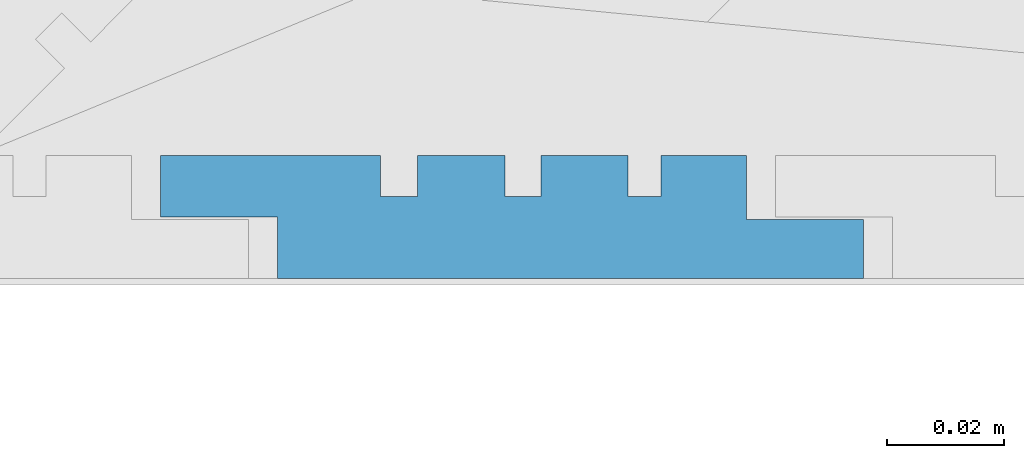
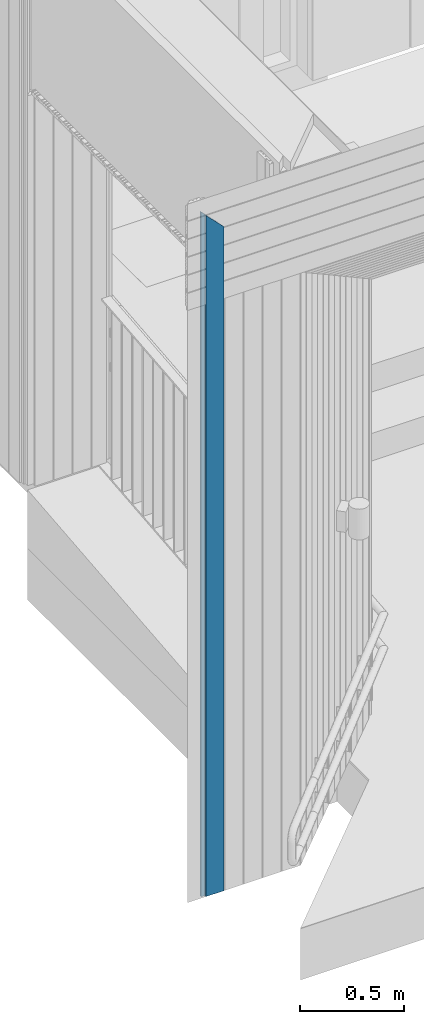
# One storey, part 100 of 418: 1 building element part, 1 element without a shape of its own.
"""IFC2X3 building model written with IfcOpenShell, lengths in millimetres."""

from ifc_helpers import new_model, entity, si_unit, converted_unit, derived_unit, money_unit, direction, frame, origin_with_axes, place, context, subcontext, project, spatial, polyline, outline, extrude, boolean, faceted_brep, material, type_object, element, aggregate, save


model = new_model("IFC2X3")

# Units and contexts
model_context = context("Model", 3, precision=0.01, world=origin_with_axes(), true_north=direction((0.0, 1.0)))
body_context = subcontext(model_context, "Body", "Model", "MODEL_VIEW")
ifc_project = project(units=[si_unit("LENGTHUNIT", "METRE", prefix="MILLI"), si_unit("AREAUNIT", "SQUARE_METRE"), si_unit("VOLUMEUNIT", "CUBIC_METRE"), converted_unit("PLANEANGLEUNIT", "DEGREE", entity("IfcPlaneAngleMeasure", 0.0174532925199), si_unit("PLANEANGLEUNIT", "RADIAN"), dimensions=[0, 0, 0, 0, 0, 0, 0]), si_unit("SOLIDANGLEUNIT", "STERADIAN"), money_unit("EUR"), converted_unit("TIMEUNIT", "Year", entity("IfcTimeMeasure", 31556926.0), si_unit("TIMEUNIT", "SECOND"), dimensions=[0, 0, 1, 0, 0, 0, 0]), si_unit("MASSUNIT", "GRAM", prefix="KILO"), si_unit("THERMODYNAMICTEMPERATUREUNIT", "DEGREE_CELSIUS"), si_unit("LUMINOUSINTENSITYUNIT", "LUMEN"), si_unit("ENERGYUNIT", "JOULE", prefix="MEGA"), derived_unit("THERMALCONDUCTANCEUNIT", [(si_unit("POWERUNIT", "WATT"), 1), (si_unit("LENGTHUNIT", "METRE"), -1), (si_unit("THERMODYNAMICTEMPERATUREUNIT", "KELVIN"), -1)]), derived_unit("SPECIFICHEATCAPACITYUNIT", [(si_unit("ENERGYUNIT", "JOULE"), 1), (si_unit("MASSUNIT", "GRAM", prefix="KILO"), -1), (si_unit("THERMODYNAMICTEMPERATUREUNIT", "KELVIN"), -1)]), derived_unit("MASSDENSITYUNIT", [(si_unit("MASSUNIT", "GRAM", prefix="KILO"), 1), (si_unit("VOLUMEUNIT", "CUBIC_METRE"), -1)])], contexts=[model_context])

# Site, building, storey
site_placement = place(None, origin_with_axes())
site = spatial("IfcSite", under=ifc_project, at=site_placement, Name="Paldiski mnt 245/1, Tallinn, Harjumaa", CompositionType="COMPLEX")
building_placement = place(site_placement, origin_with_axes())
building = spatial("IfcBuilding", under=site, at=building_placement, Name="RKAS Hoone üldnimetus (kasutust iseloomustav) -> IFC Project Manager -> SOLIBRI", CompositionType="ELEMENT")
storey_placement = place(building_placement, origin_with_axes())
storey = spatial("IfcBuildingStorey", under=building, at=storey_placement, Name="Esimene korrus", CompositionType="ELEMENT", Elevation=0.0)

# Proxy, building element part
building_element_proxy_type = type_object("IfcBuildingElementProxyType", Name="Laudis esiprofiil_01 21 x 622", PredefinedType="NOTDEFINED")
proxy_placement = place(storey_placement, frame((-45641.4622152, -18705.5141429, 0.0), z_axis=(0.0, 0.0, 1.0), x_axis=(0.0, 1.0, 0.0)))
proxy = element("IfcBuildingElementProxy", 1, at=proxy_placement, inside=storey, type_object=building_element_proxy_type, Name="Varikatus")
ifc_material = material(Name="Laudis 5072 Honka 45 horisontaalne raastas")
building_element_part_placement = place(proxy_placement, origin_with_axes())
building_element_part = element("IfcBuildingElementPart", 2, at=building_element_part_placement, material=ifc_material, Name="Laudis 5072 Honka 45 horisontaalne raastas", context=body_context, shape_type="CSG", body=[
    boolean("DIFFERENCE", boolean("DIFFERENCE", boolean("DIFFERENCE", boolean("DIFFERENCE", boolean("DIFFERENCE", boolean("DIFFERENCE", extrude(outline(polyline([(3.20348192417e-08, -100.971430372), (-10.5000010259, -100.971430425), (-10.5000005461, -80.9714298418), (-20.9999998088, -80.9714301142), (-21.0000010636, -118.497524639), (-14.0000005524, -118.497525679), (-14.0000003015, -124.860022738), (-20.99999981, -124.860022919), (-20.9999998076, -139.79914009), (-14.0000002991, -139.799139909), (-14.0000007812, -145.926080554), (-21.0000002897, -145.926080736), (-21.0000013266, -160.754573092), (-14.0000008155, -160.754574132), (-14.0000015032, -166.395242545), (-21.0000010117, -166.395242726), (-21.0000007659, -180.971429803), (-10.000001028, -180.971430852), (-10.0000002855, -200.971430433), (-7.63172636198e-07, -200.971430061), (3.20348192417e-08, -100.971430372)])), frame((0.0, 0.0, 0.0), z_axis=(0.0, 0.0, -1.0), x_axis=(-1.0, 0.0, 0.0)), (0.0, 0.0, -1.0), 4086.15997799), faceted_brep([(7.63172636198e-07, -515.971430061, 3569.02857112), (10.0000002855, -515.971430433, 3569.02857075), (10.0000002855, -515.971430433, 4086.15997799), (7.63172636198e-07, -515.971430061, 4086.15997799), (10.000001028, -495.971430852, 3589.02857033), (-3.20348192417e-08, -415.971430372, 3669.02857081), (10.5000010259, -415.971430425, 3669.02857076), (10.5000005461, -395.971429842, 3689.02857134), (20.9999998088, -395.971430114, 3689.02857107), (21.0000010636, -433.497524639, 3651.50247655), (14.0000005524, -433.497525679, 3651.50247551), (14.0000003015, -439.860022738, 3645.13997845), (20.99999981, -439.860022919, 3645.13997827), (20.9999998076, -454.79914009, 3630.20086109), (14.0000002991, -454.799139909, 3630.20086128), (14.0000007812, -460.926080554, 3624.07392063), (21.0000002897, -460.926080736, 3624.07392045), (21.0000013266, -475.754573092, 3609.24542809), (14.0000008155, -475.754574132, 3609.24542705), (14.0000015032, -481.395242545, 3603.60475864), (21.0000010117, -481.395242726, 3603.60475846), (21.0000007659, -495.971429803, 3589.02857138), (10.000001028, -495.971430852, 4086.15997799), (10.5000010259, -415.971430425, 4086.15997799), (-3.20348192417e-08, -415.971430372, 4086.15997799), (21.0000007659, -495.971429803, 4086.15997799), (21.0000010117, -481.395242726, 4086.15997799), (14.0000015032, -481.395242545, 4086.15997799), (14.0000008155, -475.754574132, 4086.15997799), (21.0000013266, -475.754573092, 4086.15997799), (21.0000002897, -460.926080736, 4086.15997799), (14.0000007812, -460.926080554, 4086.15997799), (14.0000002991, -454.799139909, 4086.15997799), (20.9999998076, -454.79914009, 4086.15997799), (20.99999981, -439.860022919, 4086.15997799), (14.0000003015, -439.860022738, 4086.15997799), (14.0000005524, -433.497525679, 4086.15997799), (21.0000010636, -433.497524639, 4086.15997799), (20.9999998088, -395.971430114, 4086.15997799), (10.5000005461, -395.971429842, 4086.15997799)], [[[0, 1, 2, 3]], [[4, 1, 0, 5, 6, 7, 8, 9, 10, 11, 12, 13, 14, 15, 16, 17, 18, 19, 20, 21]], [[1, 4, 22, 2]], [[23, 24, 3, 2, 22, 25, 26, 27, 28, 29, 30, 31, 32, 33, 34, 35, 36, 37, 38, 39]], [[5, 0, 3, 24]], [[6, 5, 24, 23]], [[7, 6, 23, 39]], [[8, 7, 39, 38]], [[9, 8, 38, 37]], [[10, 9, 37, 36]], [[11, 10, 36, 35]], [[12, 11, 35, 34]], [[13, 12, 34, 33]], [[14, 13, 33, 32]], [[15, 14, 32, 31]], [[16, 15, 31, 30]], [[17, 16, 30, 29]], [[18, 17, 29, 28]], [[19, 18, 28, 27]], [[20, 19, 27, 26]], [[21, 20, 26, 25]], [[4, 21, 25, 22]]])), faceted_brep([(7.63172636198e-07, -620.971430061, 3464.02857112), (10.0000002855, -620.971430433, 3464.02857075), (10.0000002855, -620.971430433, 4086.15997799), (7.63172636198e-07, -620.971430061, 4086.15997799), (10.000001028, -600.971430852, 3484.02857033), (-3.20348192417e-08, -520.971430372, 3564.02857081), (10.5000010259, -520.971430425, 3564.02857076), (10.5000005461, -500.971429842, 3584.02857134), (20.9999998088, -500.971430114, 3584.02857107), (21.0000010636, -538.497524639, 3546.50247655), (14.0000005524, -538.497525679, 3546.50247551), (14.0000003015, -544.860022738, 3540.13997845), (20.99999981, -544.860022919, 3540.13997827), (20.9999998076, -559.79914009, 3525.20086109), (14.0000002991, -559.799139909, 3525.20086128), (14.0000007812, -565.926080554, 3519.07392063), (21.0000002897, -565.926080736, 3519.07392045), (21.0000013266, -580.754573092, 3504.24542809), (14.0000008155, -580.754574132, 3504.24542705), (14.0000015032, -586.395242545, 3498.60475864), (21.0000010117, -586.395242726, 3498.60475846), (21.0000007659, -600.971429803, 3484.02857138), (10.000001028, -600.971430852, 4086.15997799), (10.5000010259, -520.971430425, 4086.15997799), (-3.20348192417e-08, -520.971430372, 4086.15997799), (21.0000007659, -600.971429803, 4086.15997799), (21.0000010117, -586.395242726, 4086.15997799), (14.0000015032, -586.395242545, 4086.15997799), (14.0000008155, -580.754574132, 4086.15997799), (21.0000013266, -580.754573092, 4086.15997799), (21.0000002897, -565.926080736, 4086.15997799), (14.0000007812, -565.926080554, 4086.15997799), (14.0000002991, -559.799139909, 4086.15997799), (20.9999998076, -559.79914009, 4086.15997799), (20.99999981, -544.860022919, 4086.15997799), (14.0000003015, -544.860022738, 4086.15997799), (14.0000005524, -538.497525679, 4086.15997799), (21.0000010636, -538.497524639, 4086.15997799), (20.9999998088, -500.971430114, 4086.15997799), (10.5000005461, -500.971429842, 4086.15997799)], [[[0, 1, 2, 3]], [[4, 1, 0, 5, 6, 7, 8, 9, 10, 11, 12, 13, 14, 15, 16, 17, 18, 19, 20, 21]], [[1, 4, 22, 2]], [[23, 24, 3, 2, 22, 25, 26, 27, 28, 29, 30, 31, 32, 33, 34, 35, 36, 37, 38, 39]], [[5, 0, 3, 24]], [[6, 5, 24, 23]], [[7, 6, 23, 39]], [[8, 7, 39, 38]], [[9, 8, 38, 37]], [[10, 9, 37, 36]], [[11, 10, 36, 35]], [[12, 11, 35, 34]], [[13, 12, 34, 33]], [[14, 13, 33, 32]], [[15, 14, 32, 31]], [[16, 15, 31, 30]], [[17, 16, 30, 29]], [[18, 17, 29, 28]], [[19, 18, 28, 27]], [[20, 19, 27, 26]], [[21, 20, 26, 25]], [[4, 21, 25, 22]]])), faceted_brep([(7.63172636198e-07, -305.971430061, 3779.02857112), (10.0000002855, -305.971430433, 3779.02857075), (10.0000002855, -305.971430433, 4086.15997799), (7.63172636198e-07, -305.971430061, 4086.15997799), (10.000001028, -285.971430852, 3799.02857033), (-3.20348192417e-08, -205.971430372, 3879.02857081), (10.5000010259, -205.971430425, 3879.02857076), (10.5000005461, -185.971429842, 3899.02857134), (20.9999998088, -185.971430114, 3899.02857107), (21.0000010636, -223.497524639, 3861.50247655), (14.0000005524, -223.497525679, 3861.50247551), (14.0000003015, -229.860022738, 3855.13997845), (20.99999981, -229.860022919, 3855.13997827), (20.9999998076, -244.79914009, 3840.20086109), (14.0000002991, -244.799139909, 3840.20086128), (14.0000007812, -250.926080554, 3834.07392063), (21.0000002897, -250.926080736, 3834.07392045), (21.0000013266, -265.754573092, 3819.24542809), (14.0000008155, -265.754574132, 3819.24542705), (14.0000015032, -271.395242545, 3813.60475864), (21.0000010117, -271.395242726, 3813.60475846), (21.0000007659, -285.971429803, 3799.02857138), (10.000001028, -285.971430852, 4086.15997799), (10.5000010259, -205.971430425, 4086.15997799), (-3.20348192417e-08, -205.971430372, 4086.15997799), (21.0000007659, -285.971429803, 4086.15997799), (21.0000010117, -271.395242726, 4086.15997799), (14.0000015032, -271.395242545, 4086.15997799), (14.0000008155, -265.754574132, 4086.15997799), (21.0000013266, -265.754573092, 4086.15997799), (21.0000002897, -250.926080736, 4086.15997799), (14.0000007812, -250.926080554, 4086.15997799), (14.0000002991, -244.799139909, 4086.15997799), (20.9999998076, -244.79914009, 4086.15997799), (20.99999981, -229.860022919, 4086.15997799), (14.0000003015, -229.860022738, 4086.15997799), (14.0000005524, -223.497525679, 4086.15997799), (21.0000010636, -223.497524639, 4086.15997799), (20.9999998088, -185.971430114, 4086.15997799), (10.5000005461, -185.971429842, 4086.15997799)], [[[0, 1, 2, 3]], [[4, 1, 0, 5, 6, 7, 8, 9, 10, 11, 12, 13, 14, 15, 16, 17, 18, 19, 20, 21]], [[1, 4, 22, 2]], [[23, 24, 3, 2, 22, 25, 26, 27, 28, 29, 30, 31, 32, 33, 34, 35, 36, 37, 38, 39]], [[5, 0, 3, 24]], [[6, 5, 24, 23]], [[7, 6, 23, 39]], [[8, 7, 39, 38]], [[9, 8, 38, 37]], [[10, 9, 37, 36]], [[11, 10, 36, 35]], [[12, 11, 35, 34]], [[13, 12, 34, 33]], [[14, 13, 33, 32]], [[15, 14, 32, 31]], [[16, 15, 31, 30]], [[17, 16, 30, 29]], [[18, 17, 29, 28]], [[19, 18, 28, 27]], [[20, 19, 27, 26]], [[21, 20, 26, 25]], [[4, 21, 25, 22]]])), faceted_brep([(7.63172636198e-07, -410.971430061, 3674.02857112), (10.0000002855, -410.971430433, 3674.02857075), (10.0000002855, -410.971430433, 4086.15997799), (7.63172636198e-07, -410.971430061, 4086.15997799), (10.000001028, -390.971430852, 3694.02857033), (-3.20348192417e-08, -310.971430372, 3774.02857081), (10.5000010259, -310.971430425, 3774.02857076), (10.5000005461, -290.971429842, 3794.02857134), (20.9999998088, -290.971430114, 3794.02857107), (21.0000010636, -328.497524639, 3756.50247655), (14.0000005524, -328.497525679, 3756.50247551), (14.0000003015, -334.860022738, 3750.13997845), (20.99999981, -334.860022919, 3750.13997827), (20.9999998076, -349.79914009, 3735.20086109), (14.0000002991, -349.799139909, 3735.20086128), (14.0000007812, -355.926080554, 3729.07392063), (21.0000002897, -355.926080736, 3729.07392045), (21.0000013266, -370.754573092, 3714.24542809), (14.0000008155, -370.754574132, 3714.24542705), (14.0000015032, -376.395242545, 3708.60475864), (21.0000010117, -376.395242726, 3708.60475846), (21.0000007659, -390.971429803, 3694.02857138), (10.000001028, -390.971430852, 4086.15997799), (10.5000010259, -310.971430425, 4086.15997799), (-3.20348192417e-08, -310.971430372, 4086.15997799), (21.0000007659, -390.971429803, 4086.15997799), (21.0000010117, -376.395242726, 4086.15997799), (14.0000015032, -376.395242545, 4086.15997799), (14.0000008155, -370.754574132, 4086.15997799), (21.0000013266, -370.754573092, 4086.15997799), (21.0000002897, -355.926080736, 4086.15997799), (14.0000007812, -355.926080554, 4086.15997799), (14.0000002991, -349.799139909, 4086.15997799), (20.9999998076, -349.79914009, 4086.15997799), (20.99999981, -334.860022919, 4086.15997799), (14.0000003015, -334.860022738, 4086.15997799), (14.0000005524, -328.497525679, 4086.15997799), (21.0000010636, -328.497524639, 4086.15997799), (20.9999998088, -290.971430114, 4086.15997799), (10.5000005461, -290.971429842, 4086.15997799)], [[[0, 1, 2, 3]], [[4, 1, 0, 5, 6, 7, 8, 9, 10, 11, 12, 13, 14, 15, 16, 17, 18, 19, 20, 21]], [[1, 4, 22, 2]], [[23, 24, 3, 2, 22, 25, 26, 27, 28, 29, 30, 31, 32, 33, 34, 35, 36, 37, 38, 39]], [[5, 0, 3, 24]], [[6, 5, 24, 23]], [[7, 6, 23, 39]], [[8, 7, 39, 38]], [[9, 8, 38, 37]], [[10, 9, 37, 36]], [[11, 10, 36, 35]], [[12, 11, 35, 34]], [[13, 12, 34, 33]], [[14, 13, 33, 32]], [[15, 14, 32, 31]], [[16, 15, 31, 30]], [[17, 16, 30, 29]], [[18, 17, 29, 28]], [[19, 18, 28, 27]], [[20, 19, 27, 26]], [[21, 20, 26, 25]], [[4, 21, 25, 22]]])), faceted_brep([(1.4387921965e-06, -95.9714304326, 3989.02857075), (10.0000000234, -95.9714304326, 3989.02857075), (10.0000000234, -95.9714304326, 4086.15997799), (1.4387921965e-06, -95.9714304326, 4086.15997799), (10.0000014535, -75.9714304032, 4009.02857078), (-8.28137558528e-09, 1.13997680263, 4086.13997799), (14.0000008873, -12.860024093, 4072.13997709), (14.0000008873, -19.8600231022, 4065.13997808), (20.9999998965, -19.8600231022, 4065.13997808), (20.9999998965, -34.7991407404, 4050.20086044), (14.0000008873, -34.7991393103, 4050.20086187), (14.0000008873, -40.9260801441, 4044.07392104), (20.9999998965, -40.9260801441, 4044.07392104), (21.0000013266, -55.7545733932, 4029.24542779), (14.0000008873, -55.7545748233, 4029.24542636), (14.0000008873, -61.3952431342, 4023.60475805), (21.0000013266, -61.3952431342, 4023.60475805), (21.0000013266, -75.9714304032, 4009.02857078), (10.0000014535, -75.9714304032, 4086.15997799), (14.0000008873, -55.7545748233, 4086.15997799), (21.0000013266, -55.7545733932, 4086.15997799), (20.9999998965, -40.9260801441, 4086.15997799), (14.0000008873, -40.9260801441, 4086.15997799), (14.0000008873, -34.7991393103, 4086.15997799), (20.9999998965, -34.7991407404, 4086.15997799), (20.9999998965, -19.8600231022, 4086.15997799), (14.0000008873, -19.8600231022, 4086.15997799), (14.0000008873, -12.860024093, 4086.15997799), (-8.28137558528e-09, 1.13997680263, 4086.15997799), (21.0000013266, -75.9714304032, 4086.15997799), (21.0000013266, -61.3952431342, 4086.15997799), (14.0000008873, -61.3952431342, 4086.15997799)], [[[0, 1, 2, 3]], [[4, 1, 0, 5, 6, 7, 8, 9, 10, 11, 12, 13, 14, 15, 16, 17]], [[1, 4, 18, 2]], [[19, 20, 21, 22, 23, 24, 25, 26, 27, 28, 3, 2, 18, 29, 30, 31]], [[5, 0, 3, 28]], [[6, 5, 28, 27]], [[7, 6, 27, 26]], [[8, 7, 26, 25]], [[9, 8, 25, 24]], [[10, 9, 24, 23]], [[11, 10, 23, 22]], [[12, 11, 22, 21]], [[13, 12, 21, 20]], [[14, 13, 20, 19]], [[15, 14, 19, 31]], [[16, 15, 31, 30]], [[17, 16, 30, 29]], [[4, 17, 29, 18]]])), faceted_brep([(7.63172636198e-07, -200.971430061, 3884.02857112), (10.0000002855, -200.971430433, 3884.02857075), (10.0000002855, -200.971430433, 4086.15997799), (7.63172636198e-07, -200.971430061, 4086.15997799), (10.000001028, -180.971430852, 3904.02857033), (-3.20348192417e-08, -100.971430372, 3984.02857081), (10.5000010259, -100.971430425, 3984.02857076), (10.5000005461, -80.9714298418, 4004.02857134), (20.9999998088, -80.9714301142, 4004.02857107), (21.0000010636, -118.497524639, 3966.50247655), (14.0000005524, -118.497525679, 3966.50247551), (14.0000003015, -124.860022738, 3960.13997845), (20.99999981, -124.860022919, 3960.13997827), (20.9999998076, -139.79914009, 3945.20086109), (14.0000002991, -139.799139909, 3945.20086128), (14.0000007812, -145.926080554, 3939.07392063), (21.0000002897, -145.926080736, 3939.07392045), (21.0000013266, -160.754573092, 3924.24542809), (14.0000008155, -160.754574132, 3924.24542705), (14.0000015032, -166.395242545, 3918.60475864), (21.0000010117, -166.395242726, 3918.60475846), (21.0000007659, -180.971429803, 3904.02857138), (10.000001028, -180.971430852, 4086.15997799), (10.5000010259, -100.971430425, 4086.15997799), (-3.20348192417e-08, -100.971430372, 4086.15997799), (21.0000007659, -180.971429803, 4086.15997799), (21.0000010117, -166.395242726, 4086.15997799), (14.0000015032, -166.395242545, 4086.15997799), (14.0000008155, -160.754574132, 4086.15997799), (21.0000013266, -160.754573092, 4086.15997799), (21.0000002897, -145.926080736, 4086.15997799), (14.0000007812, -145.926080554, 4086.15997799), (14.0000002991, -139.799139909, 4086.15997799), (20.9999998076, -139.79914009, 4086.15997799), (20.99999981, -124.860022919, 4086.15997799), (14.0000003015, -124.860022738, 4086.15997799), (14.0000005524, -118.497525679, 4086.15997799), (21.0000010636, -118.497524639, 4086.15997799), (20.9999998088, -80.9714301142, 4086.15997799), (10.5000005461, -80.9714298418, 4086.15997799)], [[[0, 1, 2, 3]], [[4, 1, 0, 5, 6, 7, 8, 9, 10, 11, 12, 13, 14, 15, 16, 17, 18, 19, 20, 21]], [[1, 4, 22, 2]], [[23, 24, 3, 2, 22, 25, 26, 27, 28, 29, 30, 31, 32, 33, 34, 35, 36, 37, 38, 39]], [[5, 0, 3, 24]], [[6, 5, 24, 23]], [[7, 6, 23, 39]], [[8, 7, 39, 38]], [[9, 8, 38, 37]], [[10, 9, 37, 36]], [[11, 10, 36, 35]], [[12, 11, 35, 34]], [[13, 12, 34, 33]], [[14, 13, 33, 32]], [[15, 14, 32, 31]], [[16, 15, 31, 30]], [[17, 16, 30, 29]], [[18, 17, 29, 28]], [[19, 18, 28, 27]], [[20, 19, 27, 26]], [[21, 20, 26, 25]], [[4, 21, 25, 22]]])),
])
aggregate(proxy, [building_element_part])

save(model, "model.ifc")
